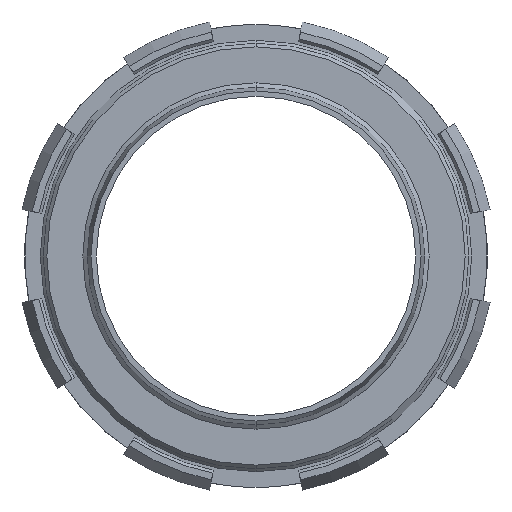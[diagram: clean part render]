
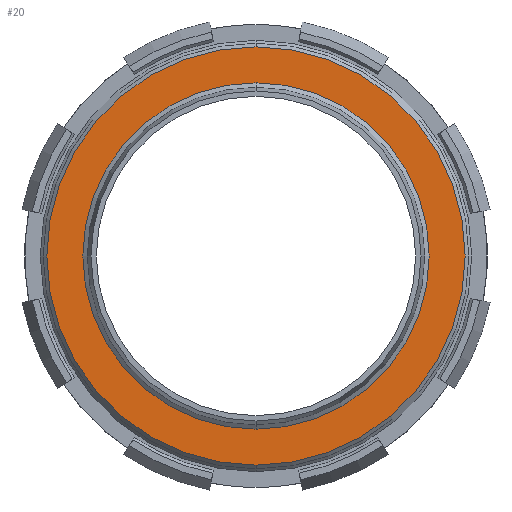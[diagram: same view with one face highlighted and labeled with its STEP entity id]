
A CAD part, front view. The second image highlights one B-rep face of the part: STEP entity #20.
In plain terms, the highlighted planar face has unit normal (0, -1, 0).
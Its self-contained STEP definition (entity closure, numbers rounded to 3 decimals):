
#20 = ADVANCED_FACE ( 'NONE', ( #1819, #588 ), #1868, .T. ) ;
#39 = CARTESIAN_POINT ( 'NONE',  ( 0., -8.5, 0. ) ) ;
#49 = DIRECTION ( 'NONE',  ( 0., 0., -1. ) ) ;
#126 = DIRECTION ( 'NONE',  ( 0., 0., -1. ) ) ;
#217 = CARTESIAN_POINT ( 'NONE',  ( 0., -8.5, 24.133 ) ) ;
#285 = VERTEX_POINT ( 'NONE', #1863 ) ;
#339 = ORIENTED_EDGE ( 'NONE', *, *, #546, .T. ) ;
#493 = CIRCLE ( 'NONE', #908, 24.133 ) ;
#496 = EDGE_LOOP ( 'NONE', ( #339, #2223 ) ) ;
#546 = EDGE_CURVE ( 'NONE', #285, #2667, #1485, .T. ) ;
#550 = DIRECTION ( 'NONE',  ( 0., 0., -1. ) ) ;
#588 = FACE_BOUND ( 'NONE', #875, .T. ) ;
#594 = DIRECTION ( 'NONE',  ( 0., -1., 0. ) ) ;
#791 = DIRECTION ( 'NONE',  ( 0., -1., 0. ) ) ;
#846 = CIRCLE ( 'NONE', #2828, 29.15 ) ;
#866 = DIRECTION ( 'NONE',  ( 0., -1., 0. ) ) ;
#875 = EDGE_LOOP ( 'NONE', ( #1873, #1894 ) ) ;
#908 = AXIS2_PLACEMENT_3D ( 'NONE', #2397, #866, #1131 ) ;
#1056 = CARTESIAN_POINT ( 'NONE',  ( 0., -8.5, 0. ) ) ;
#1131 = DIRECTION ( 'NONE',  ( 0., 0., -1. ) ) ;
#1239 = EDGE_CURVE ( 'NONE', #2877, #1789, #2487, .T. ) ;
#1357 = EDGE_CURVE ( 'NONE', #1789, #2877, #493, .T. ) ;
#1430 = DIRECTION ( 'NONE',  ( 0., 0., -1. ) ) ;
#1485 = CIRCLE ( 'NONE', #1665, 29.15 ) ;
#1629 = DIRECTION ( 'NONE',  ( 0., -1., 0. ) ) ;
#1649 = AXIS2_PLACEMENT_3D ( 'NONE', #1056, #594, #550 ) ;
#1665 = AXIS2_PLACEMENT_3D ( 'NONE', #2189, #2181, #1430 ) ;
#1691 = CARTESIAN_POINT ( 'NONE',  ( 0., -8.5, -24.133 ) ) ;
#1789 = VERTEX_POINT ( 'NONE', #217 ) ;
#1819 = FACE_OUTER_BOUND ( 'NONE', #496, .T. ) ;
#1863 = CARTESIAN_POINT ( 'NONE',  ( 0., -8.5, 29.15 ) ) ;
#1868 = PLANE ( 'NONE',  #2069 ) ;
#1873 = ORIENTED_EDGE ( 'NONE', *, *, #1357, .F. ) ;
#1894 = ORIENTED_EDGE ( 'NONE', *, *, #1239, .F. ) ;
#2069 = AXIS2_PLACEMENT_3D ( 'NONE', #2174, #1629, #126 ) ;
#2174 = CARTESIAN_POINT ( 'NONE',  ( 24.133, -8.5, 0. ) ) ;
#2181 = DIRECTION ( 'NONE',  ( 0., -1., 0. ) ) ;
#2189 = CARTESIAN_POINT ( 'NONE',  ( 0., -8.5, 0. ) ) ;
#2223 = ORIENTED_EDGE ( 'NONE', *, *, #2670, .T. ) ;
#2397 = CARTESIAN_POINT ( 'NONE',  ( 0., -8.5, 0. ) ) ;
#2487 = CIRCLE ( 'NONE', #1649, 24.133 ) ;
#2667 = VERTEX_POINT ( 'NONE', #2813 ) ;
#2670 = EDGE_CURVE ( 'NONE', #2667, #285, #846, .T. ) ;
#2813 = CARTESIAN_POINT ( 'NONE',  ( 0., -8.5, -29.15 ) ) ;
#2828 = AXIS2_PLACEMENT_3D ( 'NONE', #39, #791, #49 ) ;
#2877 = VERTEX_POINT ( 'NONE', #1691 ) ;
